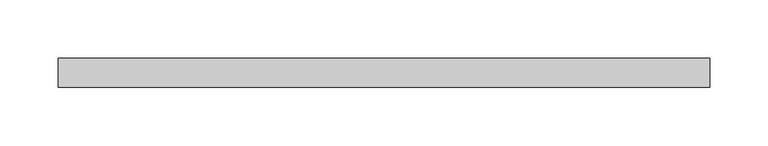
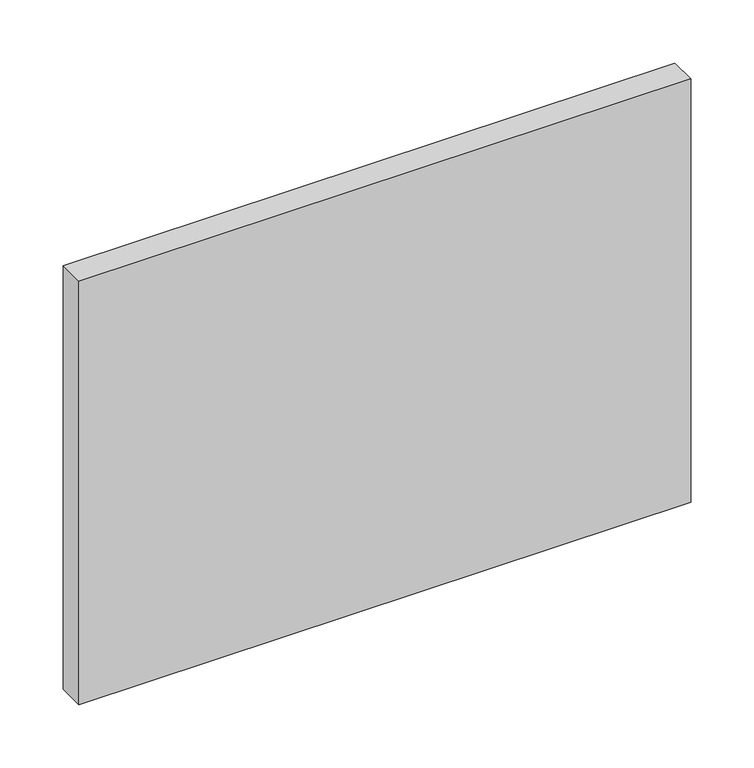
"""IFC4 building model written with IfcOpenShell, lengths in millimetres: plate geometry, 系统嵌板 : 玻璃."""

from ifc_helpers import new_model, si_unit, origin, origin_with_axes, place, context, project, spatial, polyline, outline, extrude, source, transform, mapped, element, save


def plate_1a9b818e(model_context):
    return source(origin(), model_context, "Body", "SweptSolid", [
        extrude(outline(polyline([(280.0, -12.5), (-280.0, -12.5), (-280.0, 12.5), (280.0, 12.5), (280.0, -12.5)])), origin_with_axes(), (0.0, 0.0, 1.0), 410.0),
    ])


if __name__ == "__main__":
    model = new_model("IFC4")
    model_context = context("Model", 3, world=origin())
    ifc_project = project(units=[si_unit("LENGTHUNIT", "METRE", prefix="MILLI")], contexts=[model_context])
    site = spatial("IfcSite", under=ifc_project)
    building = spatial("IfcBuilding", under=site)
    placement = place(None, origin())
    plate_shape = plate_1a9b818e(model_context)
    element("IfcPlate", 1, ObjectType="系统嵌板 : 玻璃", at=placement, inside=building, context=model_context, shape_type="MappedRepresentation", body=[
        mapped(plate_shape, transform((0.0, 0.0, 0.0), x_axis=(1.0, 0.0, 0.0), y_axis=(0.0, 1.0, 0.0), z_axis=(0.0, 0.0, 1.0))),
    ])
    save(model, "model.ifc")
